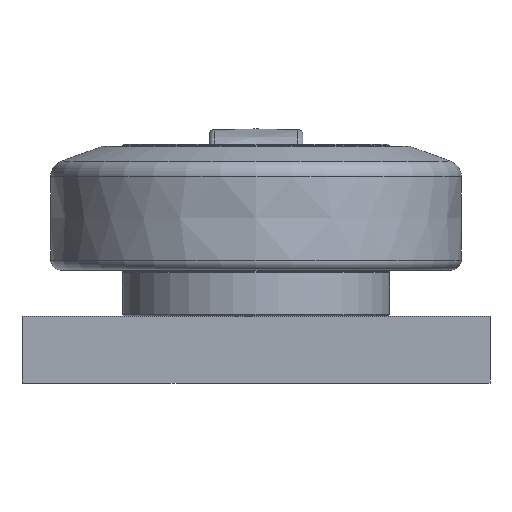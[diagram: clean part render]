
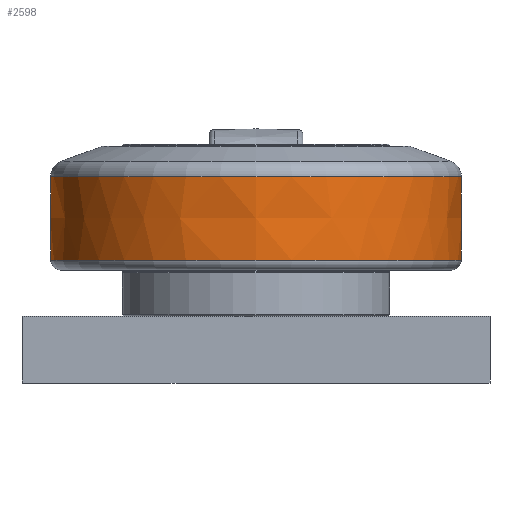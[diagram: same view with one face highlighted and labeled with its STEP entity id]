
A CAD part, front view. The second image highlights one B-rep face of the part: STEP entity #2598.
In plain terms, the highlighted free-form (B-spline) face has degree [2, 2] with [3, 9] control points.
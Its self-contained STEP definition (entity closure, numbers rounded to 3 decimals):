
#657=(
BOUNDED_SURFACE()
B_SPLINE_SURFACE(2,2,((#4463,#4464,#4465,#4466,#4467,#4468,#4469,#4470,
#4471),(#4472,#4473,#4474,#4475,#4476,#4477,#4478,#4479,#4480),(#4481,#4482,
#4483,#4484,#4485,#4486,#4487,#4488,#4489)),.UNSPECIFIED.,.F.,.T.,.F.)
B_SPLINE_SURFACE_WITH_KNOTS((3,3),(3,2,2,2,3),(-0.016,0.009),
(-3.142,-1.571,0.,1.571,3.142),
 .UNSPECIFIED.)
GEOMETRIC_REPRESENTATION_ITEM()
RATIONAL_B_SPLINE_SURFACE(((1.,0.707,1.,0.707,1.,
0.707,1.,0.707,1.),(1.,0.707,
1.,0.707,1.,0.707,
1.,0.707,1.),(1.,0.707,
1.,0.707,1.,0.707,1.,0.707,1.)))
REPRESENTATION_ITEM('')
SURFACE()
);
#752=FACE_OUTER_BOUND('',#911,.T.);
#911=EDGE_LOOP('',(#2198,#2199,#2200,#2201,#2202,#2203));
#1055=CIRCLE('',#2835,61.456);
#1056=CIRCLE('',#2836,61.456);
#1058=CIRCLE('',#2838,1000.);
#1059=CIRCLE('',#2839,61.379);
#1060=CIRCLE('',#2840,61.379);
#1266=VERTEX_POINT('',#4457);
#1267=VERTEX_POINT('',#4459);
#1268=VERTEX_POINT('',#4490);
#1269=VERTEX_POINT('',#4492);
#1598=EDGE_CURVE('',#1266,#1267,#1055,.T.);
#1599=EDGE_CURVE('',#1267,#1266,#1056,.T.);
#1601=EDGE_CURVE('',#1266,#1268,#1058,.T.);
#1602=EDGE_CURVE('',#1269,#1268,#1059,.T.);
#1603=EDGE_CURVE('',#1268,#1269,#1060,.T.);
#2198=ORIENTED_EDGE('',*,*,#1599,.F.);
#2199=ORIENTED_EDGE('',*,*,#1598,.F.);
#2200=ORIENTED_EDGE('',*,*,#1601,.T.);
#2201=ORIENTED_EDGE('',*,*,#1602,.F.);
#2202=ORIENTED_EDGE('',*,*,#1603,.F.);
#2203=ORIENTED_EDGE('',*,*,#1601,.F.);
#2598=ADVANCED_FACE('',(#752),#657,.F.);
#2835=AXIS2_PLACEMENT_3D('',#4460,#3389,#3390);
#2836=AXIS2_PLACEMENT_3D('',#4461,#3391,#3392);
#2838=AXIS2_PLACEMENT_3D('',#4491,#3395,#3396);
#2839=AXIS2_PLACEMENT_3D('',#4493,#3397,#3398);
#2840=AXIS2_PLACEMENT_3D('',#4494,#3399,#3400);
#3389=DIRECTION('center_axis',(0.,0.,
1.));
#3390=DIRECTION('ref_axis',(-1.,0.,0.));
#3391=DIRECTION('center_axis',(0.,0.,
1.));
#3392=DIRECTION('ref_axis',(-1.,0.,0.));
#3395=DIRECTION('center_axis',(-1.,0.,0.));
#3396=DIRECTION('ref_axis',(0.,1.,0.));
#3397=DIRECTION('center_axis',(0.,0.,
-1.));
#3398=DIRECTION('ref_axis',(-1.,0.,0.));
#3399=DIRECTION('center_axis',(0.,0.,
-1.));
#3400=DIRECTION('ref_axis',(-1.,0.,0.));
#4457=CARTESIAN_POINT('',(-4.114,24.99,26.721));
#4459=CARTESIAN_POINT('',(57.341,-36.466,26.721));
#4460=CARTESIAN_POINT('Origin',(-4.114,-36.466,26.721));
#4461=CARTESIAN_POINT('Origin',(-4.114,-36.466,26.721));
#4463=CARTESIAN_POINT('Ctrl Pts',(-4.114,24.914,1.753));
#4464=CARTESIAN_POINT('Ctrl Pts',(-65.494,24.914,1.753));
#4465=CARTESIAN_POINT('Ctrl Pts',(-65.494,-36.466,1.753));
#4466=CARTESIAN_POINT('Ctrl Pts',(-65.494,-97.845,1.753));
#4467=CARTESIAN_POINT('Ctrl Pts',(-4.114,-97.845,1.753));
#4468=CARTESIAN_POINT('Ctrl Pts',(57.265,-97.845,1.753));
#4469=CARTESIAN_POINT('Ctrl Pts',(57.265,-36.466,1.753));
#4470=CARTESIAN_POINT('Ctrl Pts',(57.265,24.914,1.753));
#4471=CARTESIAN_POINT('Ctrl Pts',(-4.114,24.914,1.753));
#4472=CARTESIAN_POINT('Ctrl Pts',(-4.114,25.108,14.237));
#4473=CARTESIAN_POINT('Ctrl Pts',(-65.688,25.108,14.237));
#4474=CARTESIAN_POINT('Ctrl Pts',(-65.688,-36.466,14.237));
#4475=CARTESIAN_POINT('Ctrl Pts',(-65.688,-98.039,14.237));
#4476=CARTESIAN_POINT('Ctrl Pts',(-4.114,-98.039,14.237));
#4477=CARTESIAN_POINT('Ctrl Pts',(57.459,-98.039,14.237));
#4478=CARTESIAN_POINT('Ctrl Pts',(57.459,-36.466,14.237));
#4479=CARTESIAN_POINT('Ctrl Pts',(57.459,25.108,14.237));
#4480=CARTESIAN_POINT('Ctrl Pts',(-4.114,25.108,14.237));
#4481=CARTESIAN_POINT('Ctrl Pts',(-4.114,24.99,26.721));
#4482=CARTESIAN_POINT('Ctrl Pts',(-65.57,24.99,26.721));
#4483=CARTESIAN_POINT('Ctrl Pts',(-65.57,-36.466,26.721));
#4484=CARTESIAN_POINT('Ctrl Pts',(-65.57,-97.921,26.721));
#4485=CARTESIAN_POINT('Ctrl Pts',(-4.114,-97.921,26.721));
#4486=CARTESIAN_POINT('Ctrl Pts',(57.341,-97.921,26.721));
#4487=CARTESIAN_POINT('Ctrl Pts',(57.341,-36.466,26.721));
#4488=CARTESIAN_POINT('Ctrl Pts',(57.341,24.99,26.721));
#4489=CARTESIAN_POINT('Ctrl Pts',(-4.114,24.99,26.721));
#4490=CARTESIAN_POINT('',(-4.114,24.914,1.753));
#4491=CARTESIAN_POINT('Origin',(-4.114,-974.966,17.3));
#4492=CARTESIAN_POINT('',(57.265,-36.466,1.753));
#4493=CARTESIAN_POINT('Origin',(-4.114,-36.466,1.753));
#4494=CARTESIAN_POINT('Origin',(-4.114,-36.466,1.753));
